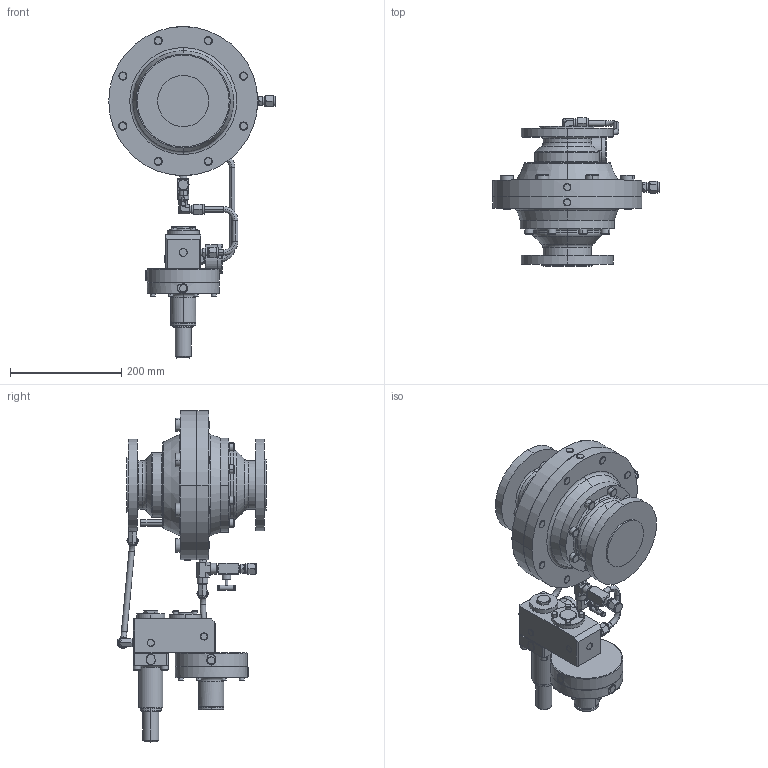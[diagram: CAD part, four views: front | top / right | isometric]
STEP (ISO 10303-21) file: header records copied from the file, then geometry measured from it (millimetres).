
FILE_DESCRIPTION((''),'2;1');
FILE_NAME('335069_H2_FC_PN16_ASM_SW0001','2019-01-25T',('jjunior'),(''),'PRO/ENGINEER BY PARAMETRIC TECHNOLOGY CORPORATION, 2010160','PRO/ENGINEER BY PARAMETRIC TECHNOLOGY CORPORATION, 2010160','');
FILE_SCHEMA(('CONFIG_CONTROL_DESIGN'));
Length unit declared in the file: millimetre
Products named in the file (1): 335069_H2_FC_PN16_ASM_SW0001
Bounding box: 299.5 x 266.71 x 597.1 mm (x, y, z)
Volume: 7329263 mm3; surface area: 562310.1 mm2
Topology: 2 solids, 2 shells, 1431 faces, 3211 edges, 1952 vertices
Faces by surface type: cylinder 439, cone 386, plane 366, torus 206, bspline 34
Entity records: 50805 total; most frequent: CARTESIAN_POINT 18607, DIRECTION 7167, ORIENTED_EDGE 6394, EDGE_CURVE 3197, AXIS2_PLACEMENT_3D 3082, VERTEX_POINT 1952, CIRCLE 1685, EDGE_LOOP 1663
